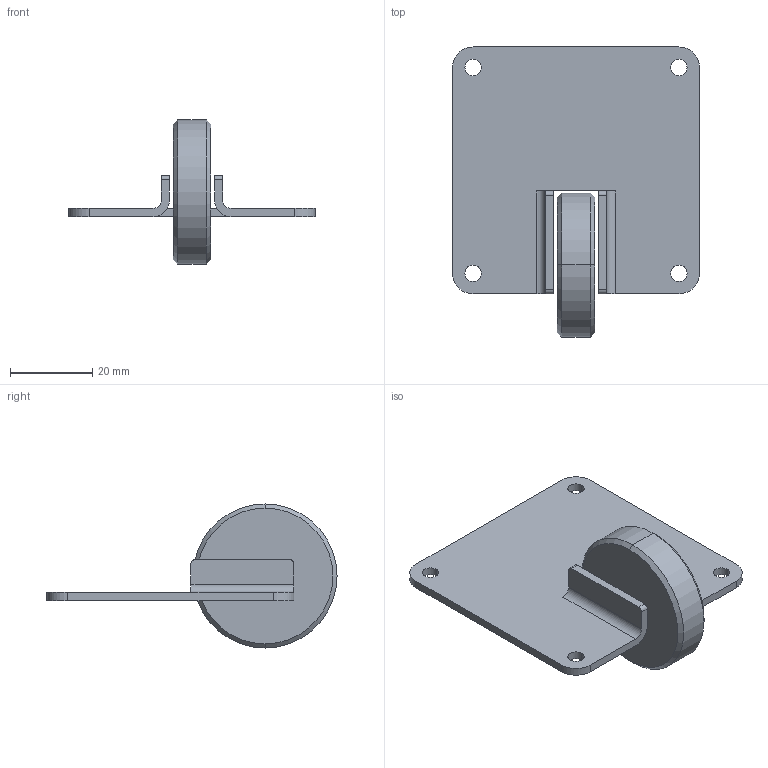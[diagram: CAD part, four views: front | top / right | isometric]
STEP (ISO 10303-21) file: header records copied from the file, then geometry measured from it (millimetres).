
FILE_DESCRIPTION (( 'STEP AP214' ), '1' );
FILE_NAME ('ALS XS EDR.STEP', '2024-10-22T08:47:32', ( '' ), ( '' ), 'SwSTEP 2.0', 'SolidWorks 2024', '' );
FILE_SCHEMA (( 'AUTOMOTIVE_DESIGN' ));
Length unit declared in the file: millimetre
Products named in the file (1): ALS XS EDR
Bounding box: 60 x 70.5 x 35 mm (x, y, z)
Volume: 15727.2 mm3; surface area: 10684.4 mm2
Topology: 2 solids, 2 shells, 44 faces, 114 edges, 74 vertices
Faces by surface type: cylinder 22, plane 18, cone 4
Entity records: 1408 total; most frequent: DIRECTION 254, CARTESIAN_POINT 233, ORIENTED_EDGE 228, EDGE_CURVE 114, AXIS2_PLACEMENT_3D 95, VERTEX_POINT 74, VECTOR 64, LINE 64
